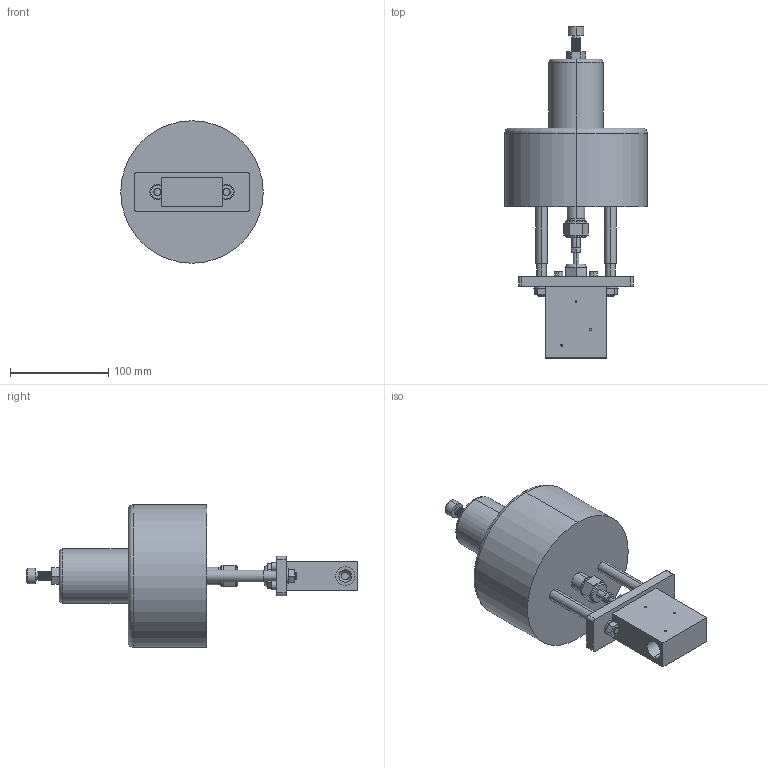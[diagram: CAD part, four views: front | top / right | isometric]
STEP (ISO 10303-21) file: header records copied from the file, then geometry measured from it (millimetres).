
FILE_DESCRIPTION (( 'STEP AP203' ), '1' );
FILE_NAME ('AOV20CV09-S.STEP', '2020-12-23T12:00:29', ( '' ), ( '' ), 'SwSTEP 2.0', 'SolidWorks 2018', '' );
FILE_SCHEMA (( 'CONFIG_CONTROL_DESIGN' ));
Length unit declared in the file: millimetre
Products named in the file (1): AOV20CV09-S
Bounding box: 145 x 337.8 x 145 mm (x, y, z)
Volume: 1693855.3 mm3; surface area: 120978.6 mm2
Topology: 1 solids, 1 shells, 247 faces, 621 edges, 400 vertices
Faces by surface type: plane 122, cylinder 98, bspline 11, cone 10, torus 6
Entity records: 20070 total; most frequent: CARTESIAN_POINT 14224, ORIENTED_EDGE 1242, DIRECTION 1149, EDGE_CURVE 621, VERTEX_POINT 400, AXIS2_PLACEMENT_3D 396, VECTOR 357, LINE 357
